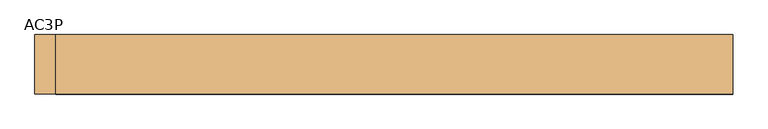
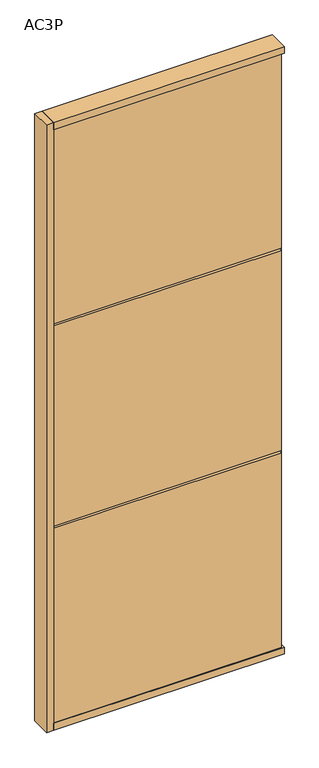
"""IFC4 building model written with IfcOpenShell, lengths in millimetres: door geometry, Mobiliário_Mobiliário de Escritório_Painel Cego - AC3P (Inicial e Final)_Marelli : AC3P."""

from ifc_helpers import new_model, si_unit, frame, origin, origin_with_axes, place, context, project, spatial, polyline, outline, extrude, source, transform, mapped, element, save


def ac3p_e0ca1f3b(model_context):
    return source(origin(), model_context, "Body", "SweptSolid", [
        extrude(outline(polyline([(500.0, 42.5), (500.0, -42.5), (-470.0, -42.5), (-470.0, 42.5), (500.0, 42.5)])), origin_with_axes(), (0.0, 0.0, 1.0), 30.0),
        extrude(outline(polyline([(490.0, 39.5), (490.0, 21.5), (-470.0, 21.5), (-470.0, 39.5), (490.0, 39.5)])), frame((0.0, 0.0, 30.0), z_axis=(0.0, 0.0, 1.0), x_axis=(1.0, 0.0, 0.0)), (0.0, 0.0, 1.0), 865.0),
        extrude(outline(polyline([(490.0, 21.5), (490.0, -21.5), (-470.0, -21.5), (-470.0, 21.5), (490.0, 21.5)])), frame((0.0, 0.0, 878.5), z_axis=(0.0, 0.0, 1.0), x_axis=(1.0, 0.0, 0.0)), (0.0, 0.0, 1.0), 43.0),
        extrude(outline(polyline([(490.0, -39.5), (-470.0, -39.5), (-470.0, -21.5), (490.0, -21.5), (490.0, -39.5)])), frame((0.0, 0.0, 30.0), z_axis=(0.0, 0.0, 1.0), x_axis=(1.0, 0.0, 0.0)), (0.0, 0.0, 1.0), 865.0),
        extrude(outline(polyline([(500.0, 42.5), (500.0, -42.5), (-470.0, -42.5), (-470.0, 42.5), (500.0, 42.5)])), frame((0.0, 0.0, 2670.0), z_axis=(0.0, 0.0, 1.0), x_axis=(1.0, 0.0, 0.0)), (0.0, 0.0, 1.0), 30.0),
        extrude(outline(polyline([(490.0, 21.5), (490.0, -21.5), (-470.0, -21.5), (-470.0, 21.5), (490.0, 21.5)])), frame((0.0, 0.0, 1778.5), z_axis=(0.0, 0.0, 1.0), x_axis=(1.0, 0.0, 0.0)), (0.0, 0.0, 1.0), 43.0),
        extrude(outline(polyline([(-500.0, -42.5), (-500.0, 42.5), (-470.0, 42.5), (-470.0, -42.5), (-500.0, -42.5)])), origin_with_axes(), (0.0, 0.0, 1.0), 2700.0),
        extrude(outline(polyline([(500.0, -21.5), (490.0, -21.5), (490.0, 21.5), (500.0, 21.5), (500.0, -21.5)])), frame((0.0, 0.0, 30.0), z_axis=(0.0, 0.0, 1.0), x_axis=(1.0, 0.0, 0.0)), (0.0, 0.0, 1.0), 2640.0),
        extrude(outline(polyline([(490.0, 39.5), (490.0, 21.5), (-470.0, 21.5), (-470.0, 39.5), (490.0, 39.5)])), frame((0.0, 0.0, 905.0), z_axis=(0.0, 0.0, 1.0), x_axis=(1.0, 0.0, 0.0)), (0.0, 0.0, 1.0), 890.0),
        extrude(outline(polyline([(490.0, -39.5), (-470.0, -39.5), (-470.0, -21.5), (490.0, -21.5), (490.0, -39.5)])), frame((0.0, 0.0, 905.0), z_axis=(0.0, 0.0, 1.0), x_axis=(1.0, 0.0, 0.0)), (0.0, 0.0, 1.0), 890.0),
        extrude(outline(polyline([(490.0, 39.5), (490.0, 21.5), (-470.0, 21.5), (-470.0, 39.5), (490.0, 39.5)])), frame((0.0, 0.0, 1805.0), z_axis=(0.0, 0.0, 1.0), x_axis=(1.0, 0.0, 0.0)), (0.0, 0.0, 1.0), 865.0),
        extrude(outline(polyline([(490.0, -39.5), (-470.0, -39.5), (-470.0, -21.5), (490.0, -21.5), (490.0, -39.5)])), frame((0.0, 0.0, 1805.0), z_axis=(0.0, 0.0, 1.0), x_axis=(1.0, 0.0, 0.0)), (0.0, 0.0, 1.0), 865.0),
    ])


if __name__ == "__main__":
    model = new_model("IFC4")
    model_context = context("Model", 3, world=origin())
    ifc_project = project(units=[si_unit("LENGTHUNIT", "METRE", prefix="MILLI")], contexts=[model_context])
    site = spatial("IfcSite", under=ifc_project)
    building = spatial("IfcBuilding", under=site)
    placement = place(None, origin())
    ac3p_shape = ac3p_e0ca1f3b(model_context)
    element("IfcDoor", 1, ObjectType="Mobiliário_Mobiliário de Escritório_Painel Cego - AC3P (Inicial e Final)_Marelli : AC3P", at=placement, inside=building, context=model_context, shape_type="MappedRepresentation", body=[
        mapped(ac3p_shape, transform((0.0, 0.0, 0.0), x_axis=(1.0, 0.0, 0.0), y_axis=(0.0, 1.0, 0.0), z_axis=(0.0, 0.0, 1.0))),
    ])
    save(model, "model.ifc")
